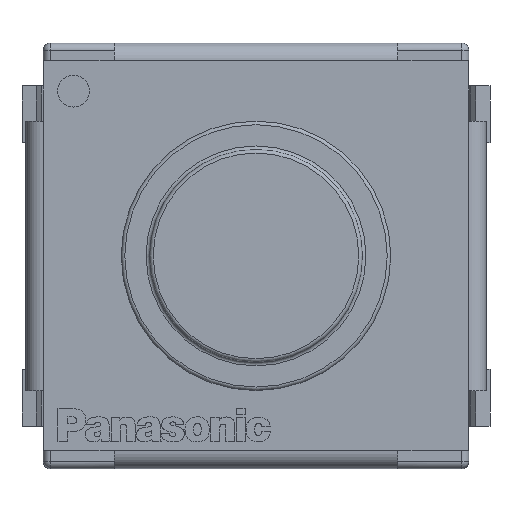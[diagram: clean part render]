
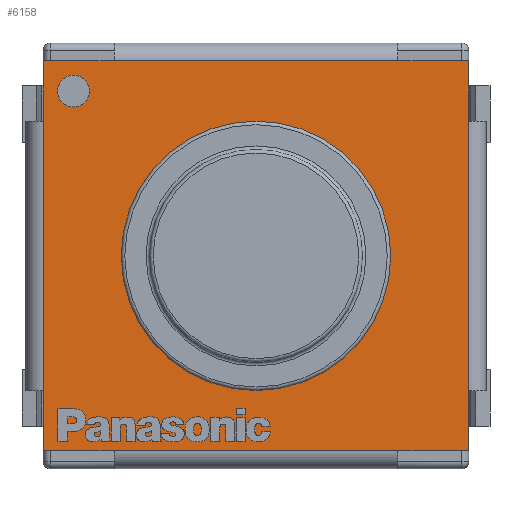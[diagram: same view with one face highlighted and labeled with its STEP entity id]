
A CAD part, top view. The second image highlights one B-rep face of the part: STEP entity #6158.
In plain terms, the highlighted planar face has unit normal (0, 0, 1).
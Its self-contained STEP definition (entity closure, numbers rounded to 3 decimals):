
#506=FACE_BOUND('',#989,.T.);
#521=CIRCLE('',#6699,1.9);
#627=FACE_OUTER_BOUND('',#988,.T.);
#988=EDGE_LOOP('',(#4130,#4131,#4132,#4133,#4134,#4135,#4136,#4137,#4138,
#4139,#4140,#4141));
#989=EDGE_LOOP('',(#4142));
#1358=LINE('',#8391,#1964);
#1374=LINE('',#8428,#1980);
#1378=LINE('',#8438,#1984);
#1379=LINE('',#8439,#1985);
#1380=LINE('',#8441,#1986);
#1381=LINE('',#8443,#1987);
#1382=LINE('',#8445,#1988);
#1383=LINE('',#8447,#1989);
#1384=LINE('',#8449,#1990);
#1385=LINE('',#8451,#1991);
#1386=LINE('',#8453,#1992);
#1387=LINE('',#8454,#1993);
#1964=VECTOR('',#7061,10.);
#1980=VECTOR('',#7087,10.);
#1984=VECTOR('',#7097,10.);
#1985=VECTOR('',#7098,10.);
#1986=VECTOR('',#7099,10.);
#1987=VECTOR('',#7100,10.);
#1988=VECTOR('',#7101,10.);
#1989=VECTOR('',#7102,10.);
#1990=VECTOR('',#7103,10.);
#1991=VECTOR('',#7104,10.);
#1992=VECTOR('',#7105,10.);
#1993=VECTOR('',#7106,10.);
#2571=VERTEX_POINT('',#8388);
#2572=VERTEX_POINT('',#8390);
#2587=VERTEX_POINT('',#8425);
#2588=VERTEX_POINT('',#8427);
#2591=VERTEX_POINT('',#8437);
#2592=VERTEX_POINT('',#8440);
#2593=VERTEX_POINT('',#8442);
#2594=VERTEX_POINT('',#8444);
#2595=VERTEX_POINT('',#8446);
#2596=VERTEX_POINT('',#8448);
#2597=VERTEX_POINT('',#8450);
#2598=VERTEX_POINT('',#8452);
#2599=VERTEX_POINT('',#8455);
#3175=EDGE_CURVE('',#2571,#2572,#1358,.T.);
#3193=EDGE_CURVE('',#2587,#2588,#1374,.T.);
#3198=EDGE_CURVE('',#2571,#2591,#1378,.T.);
#3199=EDGE_CURVE('',#2591,#2588,#1379,.T.);
#3200=EDGE_CURVE('',#2587,#2592,#1380,.T.);
#3201=EDGE_CURVE('',#2592,#2593,#1381,.T.);
#3202=EDGE_CURVE('',#2594,#2593,#1382,.T.);
#3203=EDGE_CURVE('',#2594,#2595,#1383,.T.);
#3204=EDGE_CURVE('',#2595,#2596,#1384,.T.);
#3205=EDGE_CURVE('',#2597,#2596,#1385,.T.);
#3206=EDGE_CURVE('',#2597,#2598,#1386,.T.);
#3207=EDGE_CURVE('',#2598,#2572,#1387,.T.);
#3208=EDGE_CURVE('',#2599,#2599,#521,.T.);
#4130=ORIENTED_EDGE('',*,*,#3175,.F.);
#4131=ORIENTED_EDGE('',*,*,#3198,.T.);
#4132=ORIENTED_EDGE('',*,*,#3199,.T.);
#4133=ORIENTED_EDGE('',*,*,#3193,.F.);
#4134=ORIENTED_EDGE('',*,*,#3200,.T.);
#4135=ORIENTED_EDGE('',*,*,#3201,.T.);
#4136=ORIENTED_EDGE('',*,*,#3202,.F.);
#4137=ORIENTED_EDGE('',*,*,#3203,.T.);
#4138=ORIENTED_EDGE('',*,*,#3204,.T.);
#4139=ORIENTED_EDGE('',*,*,#3205,.F.);
#4140=ORIENTED_EDGE('',*,*,#3206,.T.);
#4141=ORIENTED_EDGE('',*,*,#3207,.T.);
#4142=ORIENTED_EDGE('',*,*,#3208,.T.);
#5958=PLANE('',#6698);
#6158=ADVANCED_FACE('',(#627,#506),#5958,.T.);
#6698=AXIS2_PLACEMENT_3D('',#8436,#7095,#7096);
#6699=AXIS2_PLACEMENT_3D('',#8456,#7107,#7108);
#7061=DIRECTION('',(-1.,0.,0.));
#7087=DIRECTION('',(0.,-1.,0.));
#7095=DIRECTION('center_axis',(0.,0.,1.));
#7096=DIRECTION('ref_axis',(1.,0.,0.));
#7097=DIRECTION('',(1.,0.,0.));
#7098=DIRECTION('',(0.,1.,0.));
#7099=DIRECTION('',(0.,1.,0.));
#7100=DIRECTION('',(-1.,0.,0.));
#7101=DIRECTION('',(1.,0.,0.));
#7102=DIRECTION('',(-1.,0.,0.));
#7103=DIRECTION('',(0.,-1.,0.));
#7104=DIRECTION('',(0.,1.,0.));
#7105=DIRECTION('',(0.,-1.,0.));
#7106=DIRECTION('',(1.,0.,0.));
#7107=DIRECTION('center_axis',(0.,0.,-1.));
#7108=DIRECTION('ref_axis',(-1.,0.,0.));
#8388=CARTESIAN_POINT('',(2.,-2.75,2.));
#8390=CARTESIAN_POINT('',(-2.,-2.75,2.));
#8391=CARTESIAN_POINT('',(1.625,-2.75,2.));
#8425=CARTESIAN_POINT('',(3.,1.9,2.));
#8427=CARTESIAN_POINT('',(3.,-1.9,2.));
#8428=CARTESIAN_POINT('',(3.,1.5,2.));
#8436=CARTESIAN_POINT('Origin',(0.,0.,2.));
#8437=CARTESIAN_POINT('',(3.,-2.75,2.));
#8438=CARTESIAN_POINT('',(1.,-2.75,2.));
#8439=CARTESIAN_POINT('',(3.,-1.375,2.));
#8440=CARTESIAN_POINT('',(3.,2.75,2.));
#8441=CARTESIAN_POINT('',(3.,0.95,2.));
#8442=CARTESIAN_POINT('',(2.,2.75,2.));
#8443=CARTESIAN_POINT('',(1.5,2.75,2.));
#8444=CARTESIAN_POINT('',(-2.,2.75,2.));
#8445=CARTESIAN_POINT('',(-1.625,2.75,2.));
#8446=CARTESIAN_POINT('',(-3.,2.75,2.));
#8447=CARTESIAN_POINT('',(-1.,2.75,2.));
#8448=CARTESIAN_POINT('',(-3.,1.9,2.));
#8449=CARTESIAN_POINT('',(-3.,1.375,2.));
#8450=CARTESIAN_POINT('',(-3.,-1.9,2.));
#8451=CARTESIAN_POINT('',(-3.,-1.5,2.));
#8452=CARTESIAN_POINT('',(-3.,-2.75,2.));
#8453=CARTESIAN_POINT('',(-3.,-0.95,2.));
#8454=CARTESIAN_POINT('',(-1.5,-2.75,2.));
#8455=CARTESIAN_POINT('',(1.9,0.,2.));
#8456=CARTESIAN_POINT('Origin',(0.,0.,2.));
